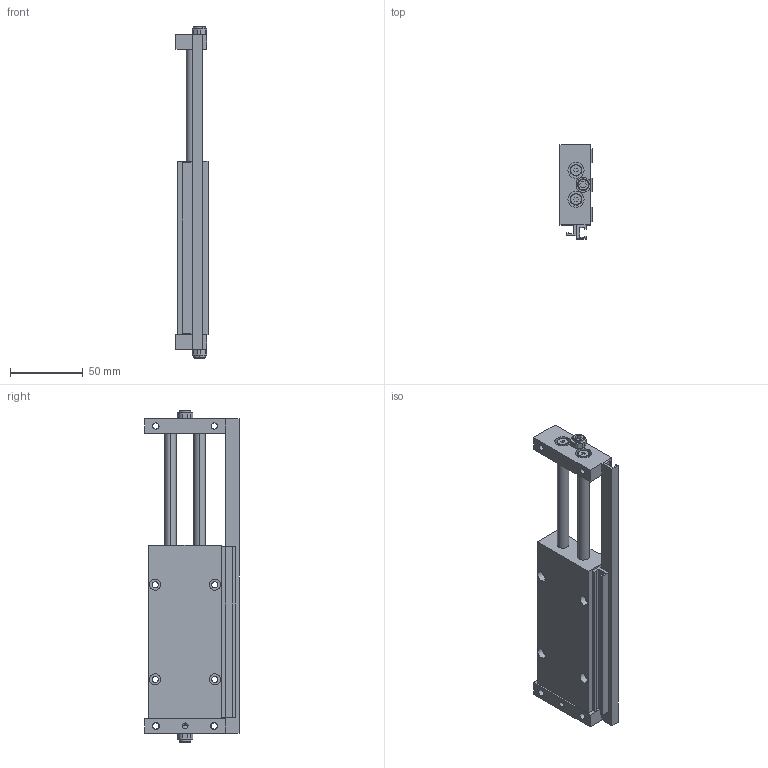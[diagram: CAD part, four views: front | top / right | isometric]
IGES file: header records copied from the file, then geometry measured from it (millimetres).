
Global section: file name: No Iges File Name specified; native system: Autodesk Inventor 2011; preprocessor: AutoDesk Inventor Iges Exporter R2011; author: nozzaem1; date: 20110516.134111; units: millimetre
Bounding box: 22 x 64.6 x 228 mm (x, y, z)
Volume: 160327.2 mm3; surface area: 61742.4 mm2
Topology: 8 solids, 8 shells, 295 faces, 686 edges, 447 vertices
Faces by surface type: plane 122, bspline 95, cylinder 38, revolution 20, cone 20
